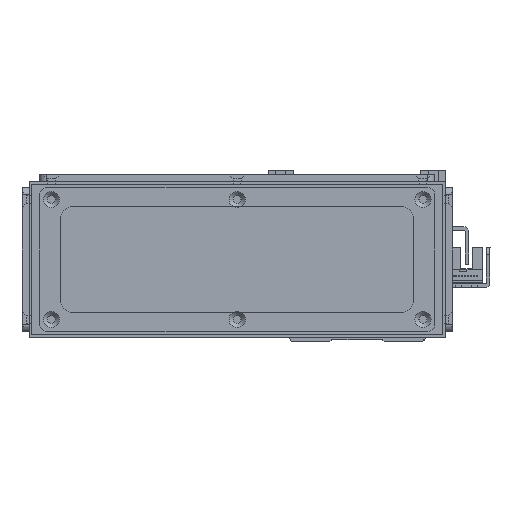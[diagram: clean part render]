
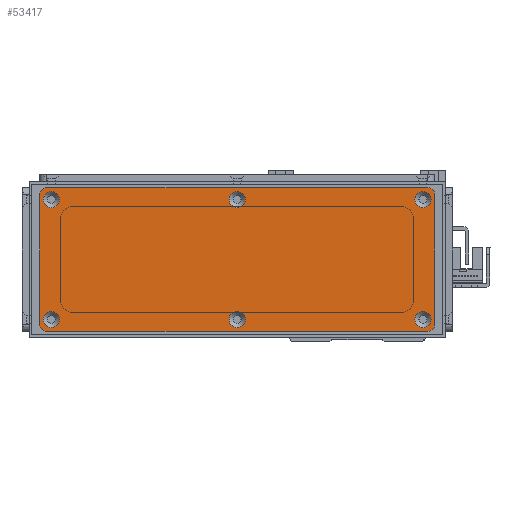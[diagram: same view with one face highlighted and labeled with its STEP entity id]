
A CAD part, left-side view. The second image highlights one B-rep face of the part: STEP entity #53417.
In plain terms, the highlighted planar face has unit normal (-1, 0, 0) as drawn and (0, 0, 1) by its records, which use the part's own axes.
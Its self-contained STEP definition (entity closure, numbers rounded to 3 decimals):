
#864=FACE_BOUND('',#9095,.T.);
#865=FACE_BOUND('',#9096,.T.);
#866=FACE_BOUND('',#9097,.T.);
#867=FACE_BOUND('',#9098,.T.);
#868=FACE_BOUND('',#9099,.T.);
#869=FACE_BOUND('',#9100,.T.);
#2826=PLANE('',#57467);
#5943=FACE_OUTER_BOUND('',#9094,.T.);
#9094=EDGE_LOOP('',(#48775,#48776,#48777,#48778,#48779,#48780,#48781,#48782));
#9095=EDGE_LOOP('',(#48783));
#9096=EDGE_LOOP('',(#48784));
#9097=EDGE_LOOP('',(#48785));
#9098=EDGE_LOOP('',(#48786));
#9099=EDGE_LOOP('',(#48787));
#9100=EDGE_LOOP('',(#48788));
#15193=LINE('',#86240,#21385);
#15196=LINE('',#86248,#21388);
#15199=LINE('',#86256,#21391);
#15202=LINE('',#86263,#21394);
#21385=VECTOR('',#70233,10.);
#21388=VECTOR('',#70242,10.);
#21391=VECTOR('',#70251,10.);
#21394=VECTOR('',#70260,10.);
#22913=CIRCLE('',#57421,3.45);
#22916=CIRCLE('',#57426,3.45);
#22919=CIRCLE('',#57431,3.45);
#22922=CIRCLE('',#57436,3.45);
#22925=CIRCLE('',#57441,3.45);
#22928=CIRCLE('',#57446,3.45);
#22935=CIRCLE('',#57456,3.);
#22936=CIRCLE('',#57459,3.);
#22937=CIRCLE('',#57462,3.);
#22938=CIRCLE('',#57465,3.);
#27610=VERTEX_POINT('',#86156);
#27613=VERTEX_POINT('',#86166);
#27616=VERTEX_POINT('',#86176);
#27619=VERTEX_POINT('',#86186);
#27622=VERTEX_POINT('',#86196);
#27625=VERTEX_POINT('',#86206);
#27636=VERTEX_POINT('',#86233);
#27637=VERTEX_POINT('',#86235);
#27638=VERTEX_POINT('',#86239);
#27639=VERTEX_POINT('',#86243);
#27640=VERTEX_POINT('',#86247);
#27641=VERTEX_POINT('',#86251);
#27642=VERTEX_POINT('',#86255);
#27643=VERTEX_POINT('',#86259);
#34756=EDGE_CURVE('',#27610,#27610,#22913,.T.);
#34761=EDGE_CURVE('',#27613,#27613,#22916,.T.);
#34766=EDGE_CURVE('',#27616,#27616,#22919,.T.);
#34771=EDGE_CURVE('',#27619,#27619,#22922,.T.);
#34776=EDGE_CURVE('',#27622,#27622,#22925,.T.);
#34781=EDGE_CURVE('',#27625,#27625,#22928,.T.);
#34795=EDGE_CURVE('',#27637,#27636,#22935,.T.);
#34797=EDGE_CURVE('',#27638,#27637,#15193,.T.);
#34799=EDGE_CURVE('',#27639,#27638,#22936,.T.);
#34801=EDGE_CURVE('',#27640,#27639,#15196,.T.);
#34803=EDGE_CURVE('',#27641,#27640,#22937,.T.);
#34805=EDGE_CURVE('',#27642,#27641,#15199,.T.);
#34807=EDGE_CURVE('',#27643,#27642,#22938,.T.);
#34809=EDGE_CURVE('',#27636,#27643,#15202,.T.);
#48775=ORIENTED_EDGE('',*,*,#34809,.T.);
#48776=ORIENTED_EDGE('',*,*,#34807,.T.);
#48777=ORIENTED_EDGE('',*,*,#34805,.T.);
#48778=ORIENTED_EDGE('',*,*,#34803,.T.);
#48779=ORIENTED_EDGE('',*,*,#34801,.T.);
#48780=ORIENTED_EDGE('',*,*,#34799,.T.);
#48781=ORIENTED_EDGE('',*,*,#34797,.T.);
#48782=ORIENTED_EDGE('',*,*,#34795,.T.);
#48783=ORIENTED_EDGE('',*,*,#34756,.T.);
#48784=ORIENTED_EDGE('',*,*,#34761,.T.);
#48785=ORIENTED_EDGE('',*,*,#34766,.T.);
#48786=ORIENTED_EDGE('',*,*,#34771,.T.);
#48787=ORIENTED_EDGE('',*,*,#34776,.T.);
#48788=ORIENTED_EDGE('',*,*,#34781,.T.);
#53417=ADVANCED_FACE('',(#5943,#864,#865,#866,#867,#868,#869),#2826,.T.);
#57421=AXIS2_PLACEMENT_3D('',#86157,#70141,#70142);
#57426=AXIS2_PLACEMENT_3D('',#86167,#70153,#70154);
#57431=AXIS2_PLACEMENT_3D('',#86177,#70165,#70166);
#57436=AXIS2_PLACEMENT_3D('',#86187,#70177,#70178);
#57441=AXIS2_PLACEMENT_3D('',#86197,#70189,#70190);
#57446=AXIS2_PLACEMENT_3D('',#86207,#70201,#70202);
#57456=AXIS2_PLACEMENT_3D('',#86236,#70228,#70229);
#57459=AXIS2_PLACEMENT_3D('',#86244,#70237,#70238);
#57462=AXIS2_PLACEMENT_3D('',#86252,#70246,#70247);
#57465=AXIS2_PLACEMENT_3D('',#86260,#70255,#70256);
#57467=AXIS2_PLACEMENT_3D('',#86264,#70261,#70262);
#70141=DIRECTION('center_axis',(0.,0.,-1.));
#70142=DIRECTION('ref_axis',(1.,0.,0.));
#70153=DIRECTION('center_axis',(0.,0.,-1.));
#70154=DIRECTION('ref_axis',(1.,0.,0.));
#70165=DIRECTION('center_axis',(0.,0.,-1.));
#70166=DIRECTION('ref_axis',(1.,0.,0.));
#70177=DIRECTION('center_axis',(0.,0.,-1.));
#70178=DIRECTION('ref_axis',(1.,0.,0.));
#70189=DIRECTION('center_axis',(0.,0.,-1.));
#70190=DIRECTION('ref_axis',(1.,0.,0.));
#70201=DIRECTION('center_axis',(0.,0.,-1.));
#70202=DIRECTION('ref_axis',(1.,0.,0.));
#70228=DIRECTION('center_axis',(0.,0.,1.));
#70229=DIRECTION('ref_axis',(-1.,0.,0.));
#70233=DIRECTION('',(0.,1.,0.));
#70237=DIRECTION('center_axis',(0.,0.,1.));
#70238=DIRECTION('ref_axis',(0.,1.,0.));
#70242=DIRECTION('',(1.,0.,0.));
#70246=DIRECTION('center_axis',(0.,0.,1.));
#70247=DIRECTION('ref_axis',(1.,0.,0.));
#70251=DIRECTION('',(0.,-1.,0.));
#70255=DIRECTION('center_axis',(0.,0.,1.));
#70256=DIRECTION('ref_axis',(0.,-1.,0.));
#70260=DIRECTION('',(-1.,0.,0.));
#70261=DIRECTION('center_axis',(0.,0.,1.));
#70262=DIRECTION('ref_axis',(1.,0.,0.));
#86156=CARTESIAN_POINT('',(-3.45,25.5,1.5));
#86157=CARTESIAN_POINT('Origin',(0.,25.5,1.5));
#86166=CARTESIAN_POINT('',(75.55,-25.5,1.5));
#86167=CARTESIAN_POINT('Origin',(79.,-25.5,1.5));
#86176=CARTESIAN_POINT('',(-82.45,25.5,1.5));
#86177=CARTESIAN_POINT('Origin',(-79.,25.5,1.5));
#86186=CARTESIAN_POINT('',(75.55,25.5,1.5));
#86187=CARTESIAN_POINT('Origin',(79.,25.5,1.5));
#86196=CARTESIAN_POINT('',(-82.45,-25.5,1.5));
#86197=CARTESIAN_POINT('Origin',(-79.,-25.5,1.5));
#86206=CARTESIAN_POINT('',(-3.45,-25.5,1.5));
#86207=CARTESIAN_POINT('Origin',(0.,-25.5,1.5));
#86233=CARTESIAN_POINT('',(81.,30.5,1.5));
#86235=CARTESIAN_POINT('',(84.,27.5,1.5));
#86236=CARTESIAN_POINT('Origin',(81.,27.5,1.5));
#86239=CARTESIAN_POINT('',(84.,-27.5,1.5));
#86240=CARTESIAN_POINT('',(84.,27.5,1.5));
#86243=CARTESIAN_POINT('',(81.,-30.5,1.5));
#86244=CARTESIAN_POINT('Origin',(81.,-27.5,1.5));
#86247=CARTESIAN_POINT('',(-81.,-30.5,1.5));
#86248=CARTESIAN_POINT('',(81.,-30.5,1.5));
#86251=CARTESIAN_POINT('',(-84.,-27.5,1.5));
#86252=CARTESIAN_POINT('Origin',(-81.,-27.5,1.5));
#86255=CARTESIAN_POINT('',(-84.,27.5,1.5));
#86256=CARTESIAN_POINT('',(-84.,-27.5,1.5));
#86259=CARTESIAN_POINT('',(-81.,30.5,1.5));
#86260=CARTESIAN_POINT('Origin',(-81.,27.5,1.5));
#86263=CARTESIAN_POINT('',(-81.,30.5,1.5));
#86264=CARTESIAN_POINT('Origin',(0.,0.,
1.5));
